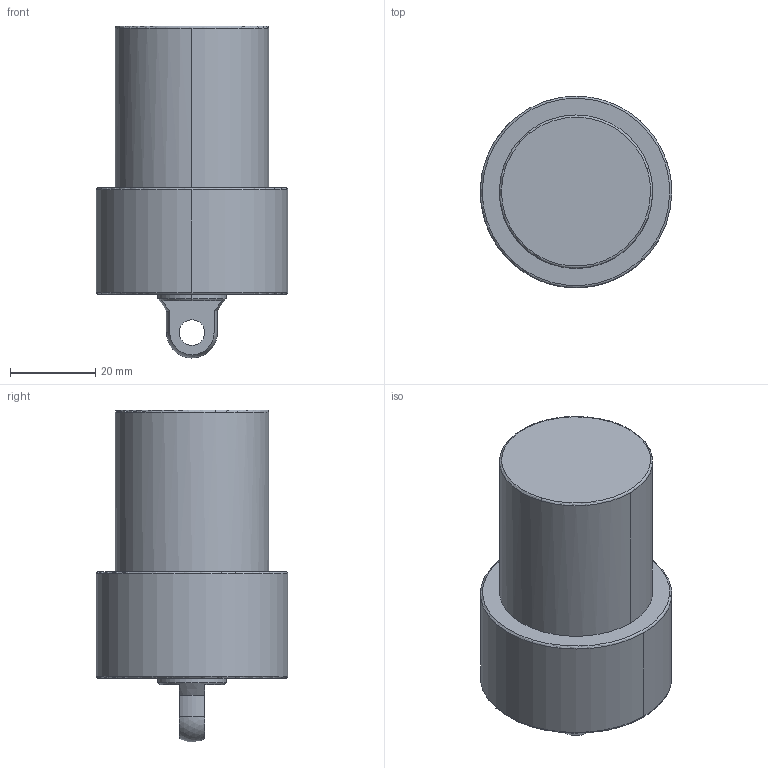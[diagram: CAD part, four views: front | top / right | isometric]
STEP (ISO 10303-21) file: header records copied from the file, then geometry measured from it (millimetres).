
FILE_DESCRIPTION((' '),'2;1');
FILE_NAME( 'TLLU-036GP-030.STEP.stp', '2025-10-24T16:37:08', (' '), ('--- Datakit www.datakit.com---'), ' Datakit CrossCadWare V2024.1 Dec 21 2023', 'Mastercam 2025', ' ');
FILE_SCHEMA(('AUTOMOTIVE_DESIGN { 1 0 10303 214 1 1 1 1 }'));
Length unit declared in the file: millimetre
Products named in the file (1): TLLU-036GP-030
Bounding box: 44.99 x 45 x 77.97 mm (x, y, z)
Volume: 78792.3 mm3; surface area: 12001.8 mm2
Topology: 1 solids, 1 shells, 56 faces, 159 edges, 105 vertices
Faces by surface type: cylinder 22, cone 18, plane 9, torus 6, sphere 1
Entity records: 1872 total; most frequent: DIRECTION 364, CARTESIAN_POINT 325, ORIENTED_EDGE 302, AXIS2_PLACEMENT_3D 160, EDGE_CURVE 151, VERTEX_POINT 105, CIRCLE 103, EDGE_LOOP 66
